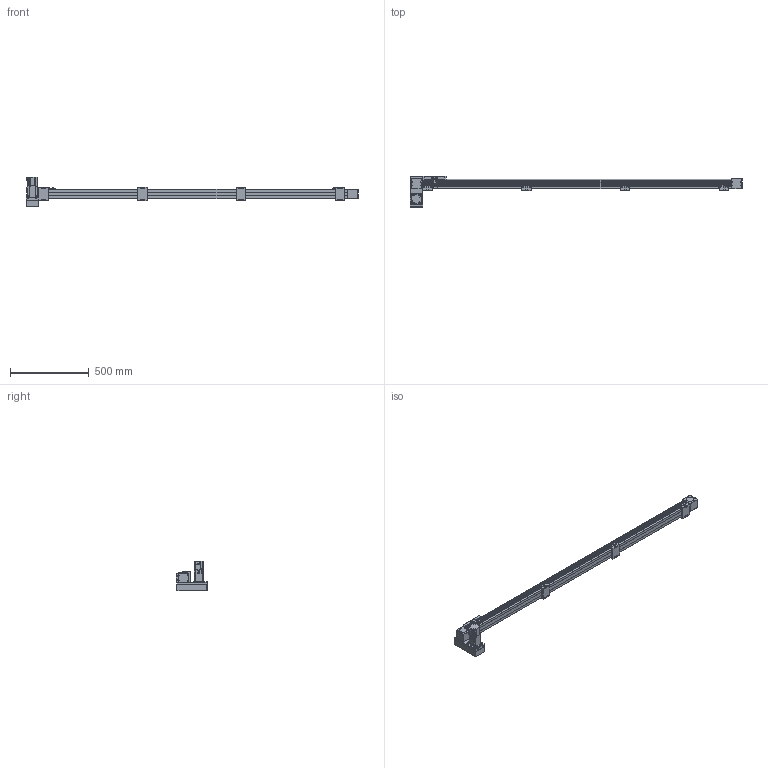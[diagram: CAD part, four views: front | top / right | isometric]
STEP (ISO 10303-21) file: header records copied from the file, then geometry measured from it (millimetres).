
FILE_DESCRIPTION(/* description */ ('STEP AP214'),/* implementation_level */ '2;1');
FILE_NAME(/* name */ 'SK60-P13-S1800-LD-T40-C1-N(0)',/* time_stamp */ '2023-04-06T04:39:23+02:00',/* author */ ('License CC BY-ND 4.0'),/* organization */ ('CADENAS'),/* preprocessor_version */ 'ST-DEVELOPER v19.3',/* originating_system */ 'PARTsolutions',/* authorisation */ ' ');
FILE_SCHEMA (('AUTOMOTIVE_DESIGN {1 0 10303 214 3 1 1}'));
Length unit declared in the file: millimetre
Products named in the file (10): SK60-P13-S1800-LD-T40-C1-N(0); PSC140-sensor; SK60-S450_seat; SK60-S450-BL-C1_slider; SK60_body3; SK60_body6; SK60-BL_body2; T40-p1; SK60-LD_fb; SK60-S1800-LD-C1_body
Assembly tree (18 placements, depth 2):
  SK60-P13-S1800-LD-T40-C1-N(0)
    PSC140-sensor  x3
    SK60-S450_seat  x4
    SK60-S450-BL-C1_slider
    SK60_body3  x3
    SK60_body6  x2
    SK60-BL_body2  x2
    T40-p1
    SK60-LD_fb
    SK60-S1800-LD-C1_body
Bounding box: 2105.5 x 199 x 189.7 mm (x, y, z)
Volume: 8341993.6 mm3; surface area: 1003301.3 mm2
Topology: 18 solids, 18 shells, 898 faces, 2244 edges, 1477 vertices
Faces by surface type: plane 572, cylinder 294, cone 30, torus 2
Full cylindrical faces by diameter (mm): 2.8 x3, 3.3 x4, 4 x2, 4.5 x30, 4.6 x3, 4.917 x24, 5 x6, 5.478 x4, 5.5 x27, 6.5 x8, 7 x2, 8 x4, 8.5 x4, 9.988 x4, 10 x16, 14 x1, 47 x3, 50 x2
Entity records: 18671 total; most frequent: DIRECTION 3188, CARTESIAN_POINT 3152, ORIENTED_EDGE 2940, EDGE_CURVE 1470, AXIS2_PLACEMENT_3D 1070, LINE 1048, VECTOR 1048, VERTEX_POINT 1034
